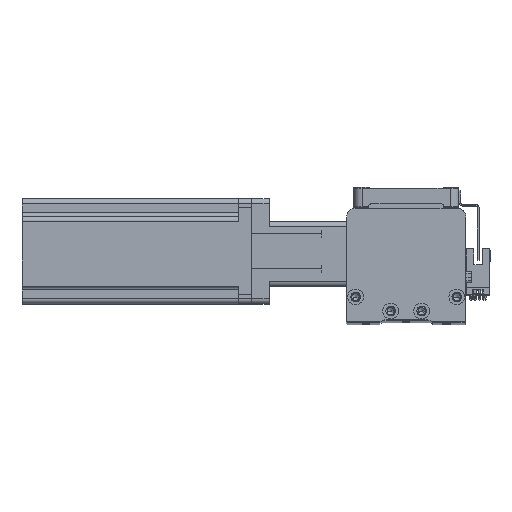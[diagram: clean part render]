
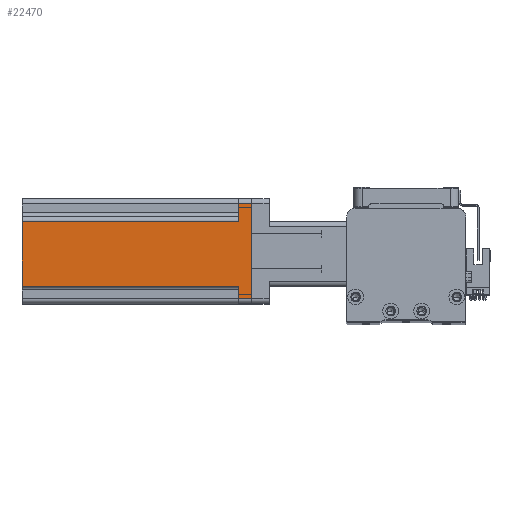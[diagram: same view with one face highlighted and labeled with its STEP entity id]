
A CAD part, top view. The second image highlights one B-rep face of the part: STEP entity #22470.
In plain terms, the highlighted planar face has unit normal (0, 0, 1) as drawn and (-1, 0, 0) by its records, which use the part's own axes.
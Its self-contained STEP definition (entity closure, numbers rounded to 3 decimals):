
#210 = CARTESIAN_POINT ( 'NONE',  ( -30., -30., 130.7 ) ) ;
#640 = VECTOR ( 'NONE', #16636, 1000. ) ;
#921 = LINE ( 'NONE', #10163, #27715 ) ;
#1495 = ORIENTED_EDGE ( 'NONE', *, *, #36558, .F. ) ;
#2343 = LINE ( 'NONE', #21863, #35844 ) ;
#3035 = VECTOR ( 'NONE', #26318, 1000. ) ;
#3212 = LINE ( 'NONE', #16876, #36747 ) ;
#3532 = DIRECTION ( 'NONE',  ( 0., 0., -1. ) ) ;
#3556 = EDGE_LOOP ( 'NONE', ( #1495, #12786, #7797, #10345, #19398, #18079, #13438, #39234 ) ) ;
#3835 = EDGE_CURVE ( 'NONE', #14779, #41330, #921, .T. ) ;
#4059 = LINE ( 'NONE', #36187, #3035 ) ;
#4489 = LINE ( 'NONE', #28059, #12414 ) ;
#5075 = DIRECTION ( 'NONE',  ( 0., 0., -1. ) ) ;
#6735 = VERTEX_POINT ( 'NONE', #20218 ) ;
#6764 = PLANE ( 'NONE',  #40151 ) ;
#7797 = ORIENTED_EDGE ( 'NONE', *, *, #31819, .F. ) ;
#9190 = VERTEX_POINT ( 'NONE', #42930 ) ;
#10163 = CARTESIAN_POINT ( 'NONE',  ( -30., -30., 0. ) ) ;
#10345 = ORIENTED_EDGE ( 'NONE', *, *, #39444, .F. ) ;
#11299 = DIRECTION ( 'NONE',  ( 0., 1., 0. ) ) ;
#11606 = FACE_OUTER_BOUND ( 'NONE', #3556, .T. ) ;
#12414 = VECTOR ( 'NONE', #11299, 1000. ) ;
#12786 = ORIENTED_EDGE ( 'NONE', *, *, #38793, .T. ) ;
#13247 = VECTOR ( 'NONE', #14353, 1000. ) ;
#13262 = CARTESIAN_POINT ( 'NONE',  ( -30., 20., 7.5 ) ) ;
#13363 = DIRECTION ( 'NONE',  ( 0., -1., 0. ) ) ;
#13438 = ORIENTED_EDGE ( 'NONE', *, *, #3835, .T. ) ;
#14353 = DIRECTION ( 'NONE',  ( 0., -1., 0. ) ) ;
#14387 = LINE ( 'NONE', #40407, #40985 ) ;
#14779 = VERTEX_POINT ( 'NONE', #31274 ) ;
#16636 = DIRECTION ( 'NONE',  ( 0., 0., 1. ) ) ;
#16876 = CARTESIAN_POINT ( 'NONE',  ( -30., -17., 130.7 ) ) ;
#17109 = DIRECTION ( 'NONE',  ( 0., 0., 1. ) ) ;
#18079 = ORIENTED_EDGE ( 'NONE', *, *, #35230, .T. ) ;
#19398 = ORIENTED_EDGE ( 'NONE', *, *, #41725, .T. ) ;
#20218 = CARTESIAN_POINT ( 'NONE',  ( -30., -17., 130.7 ) ) ;
#20986 = CARTESIAN_POINT ( 'NONE',  ( -30., -30., 130.7 ) ) ;
#21619 = CARTESIAN_POINT ( 'NONE',  ( -30., -27., 7.5 ) ) ;
#21863 = CARTESIAN_POINT ( 'NONE',  ( -30., 27., 130.7 ) ) ;
#22470 = ADVANCED_FACE ( 'NONE', ( #11606 ), #6764, .F. ) ;
#23664 = DIRECTION ( 'NONE',  ( 0., 0., 1. ) ) ;
#23691 = DIRECTION ( 'NONE',  ( 1., 0., 0. ) ) ;
#24364 = VERTEX_POINT ( 'NONE', #28401 ) ;
#24393 = VERTEX_POINT ( 'NONE', #25296 ) ;
#25296 = CARTESIAN_POINT ( 'NONE',  ( -30., 27., 7.5 ) ) ;
#26318 = DIRECTION ( 'NONE',  ( 0., -1., 0. ) ) ;
#27569 = VERTEX_POINT ( 'NONE', #21619 ) ;
#27715 = VECTOR ( 'NONE', #13363, 1000. ) ;
#28059 = CARTESIAN_POINT ( 'NONE',  ( -30., 30., 7.5 ) ) ;
#28401 = CARTESIAN_POINT ( 'NONE',  ( -30., 20., 7.5 ) ) ;
#28480 = LINE ( 'NONE', #13262, #640 ) ;
#28561 = CARTESIAN_POINT ( 'NONE',  ( -30., -27., 0. ) ) ;
#28655 = EDGE_CURVE ( 'NONE', #41330, #27569, #14387, .T. ) ;
#31274 = CARTESIAN_POINT ( 'NONE',  ( -30., 27., 0. ) ) ;
#31819 = EDGE_CURVE ( 'NONE', #43185, #6735, #33193, .T. ) ;
#33193 = LINE ( 'NONE', #20986, #13247 ) ;
#35230 = EDGE_CURVE ( 'NONE', #24393, #14779, #2343, .T. ) ;
#35844 = VECTOR ( 'NONE', #5075, 1000. ) ;
#36187 = CARTESIAN_POINT ( 'NONE',  ( -30., -30., 7.5 ) ) ;
#36558 = EDGE_CURVE ( 'NONE', #9190, #27569, #4059, .T. ) ;
#36747 = VECTOR ( 'NONE', #23664, 1000. ) ;
#38793 = EDGE_CURVE ( 'NONE', #9190, #6735, #3212, .T. ) ;
#39234 = ORIENTED_EDGE ( 'NONE', *, *, #28655, .T. ) ;
#39444 = EDGE_CURVE ( 'NONE', #24364, #43185, #28480, .T. ) ;
#40151 = AXIS2_PLACEMENT_3D ( 'NONE', #210, #23691, #3532 ) ;
#40407 = CARTESIAN_POINT ( 'NONE',  ( -30., -27., 130.7 ) ) ;
#40985 = VECTOR ( 'NONE', #17109, 1000. ) ;
#41330 = VERTEX_POINT ( 'NONE', #28561 ) ;
#41725 = EDGE_CURVE ( 'NONE', #24364, #24393, #4489, .T. ) ;
#42890 = CARTESIAN_POINT ( 'NONE',  ( -30., 20., 130.7 ) ) ;
#42930 = CARTESIAN_POINT ( 'NONE',  ( -30., -17., 7.5 ) ) ;
#43185 = VERTEX_POINT ( 'NONE', #42890 ) ;
